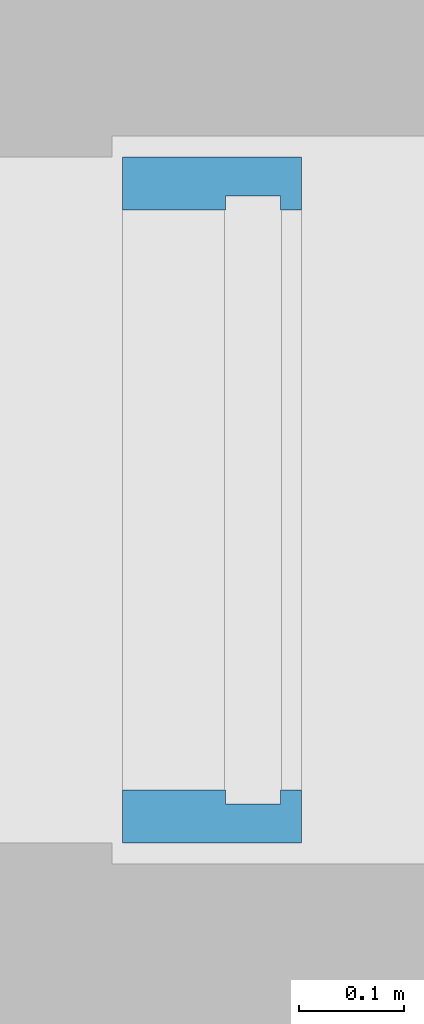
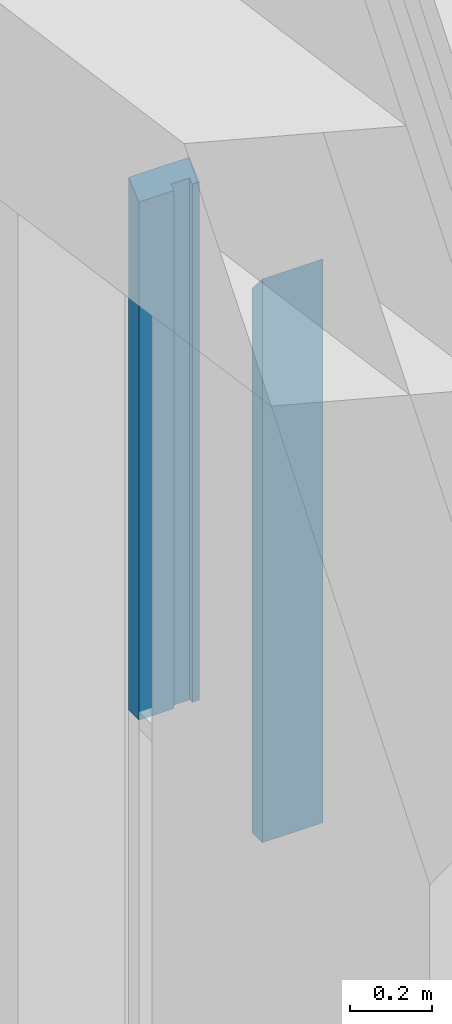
# One storey, part 79 of 246: 2 members, 1 element without a shape of its own.
"""IFC2X3 building model written with IfcOpenShell, lengths in millimetres."""

from ifc_helpers import new_model, entity, si_unit, converted_unit, derived_unit, money_unit, direction, frame, origin_with_axes, place, context, subcontext, project, spatial, faceted_brep, material, type_object, element, aggregate, save


model = new_model("IFC2X3")

# Units and contexts
model_context = context("Model", 3, precision=0.01, world=origin_with_axes(), true_north=direction((0.0, 1.0)))
body_context = subcontext(model_context, "Body", "Model", "MODEL_VIEW")
ifc_project = project(units=[si_unit("LENGTHUNIT", "METRE", prefix="MILLI"), si_unit("AREAUNIT", "SQUARE_METRE"), si_unit("VOLUMEUNIT", "CUBIC_METRE"), converted_unit("PLANEANGLEUNIT", "DEGREE", entity("IfcPlaneAngleMeasure", 0.0174532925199), si_unit("PLANEANGLEUNIT", "RADIAN"), dimensions=[0, 0, 0, 0, 0, 0, 0]), si_unit("SOLIDANGLEUNIT", "STERADIAN"), money_unit("EUR"), converted_unit("TIMEUNIT", "Year", entity("IfcTimeMeasure", 31556926.0), si_unit("TIMEUNIT", "SECOND"), dimensions=[0, 0, 1, 0, 0, 0, 0]), si_unit("MASSUNIT", "GRAM", prefix="KILO"), si_unit("THERMODYNAMICTEMPERATUREUNIT", "DEGREE_CELSIUS"), si_unit("LUMINOUSINTENSITYUNIT", "LUMEN"), si_unit("ENERGYUNIT", "JOULE", prefix="MEGA"), derived_unit("THERMALCONDUCTANCEUNIT", [(si_unit("POWERUNIT", "WATT"), 1), (si_unit("LENGTHUNIT", "METRE"), -1), (si_unit("THERMODYNAMICTEMPERATUREUNIT", "KELVIN"), -1)]), derived_unit("SPECIFICHEATCAPACITYUNIT", [(si_unit("ENERGYUNIT", "JOULE"), 1), (si_unit("MASSUNIT", "GRAM", prefix="KILO"), -1), (si_unit("THERMODYNAMICTEMPERATUREUNIT", "KELVIN"), -1)]), derived_unit("MASSDENSITYUNIT", [(si_unit("MASSUNIT", "GRAM", prefix="KILO"), 1), (si_unit("VOLUMEUNIT", "CUBIC_METRE"), -1)])], contexts=[model_context])

# Site, building, storey
site_placement = place(None, origin_with_axes())
site = spatial("IfcSite", under=ifc_project, at=site_placement, Name="L.Koidula tn 11b", CompositionType="ELEMENT")
building_placement = place(site_placement, origin_with_axes())
building = spatial("IfcBuilding", under=site, at=building_placement, Name="Rakvere Riigigümnaasium", CompositionType="ELEMENT")
storey_placement = place(building_placement, origin_with_axes())
storey = spatial("IfcBuildingStorey", under=building, at=storey_placement, Name="1.korrus 0,00", CompositionType="ELEMENT", Elevation=0.0)

# Curtain wall, members
curtain_wall_type = type_object("IfcCurtainWallType", Name="Curtain Wall Type", PredefinedType="NOTDEFINED")
curtain_wall_placement = place(storey_placement, frame((47433.9999935, 68420.4546651, 500.0), z_axis=(0.0, 0.0, 1.0), x_axis=(1.0, 0.0, 0.0)))
curtain_wall = element("IfcCurtainWall", 1, at=curtain_wall_placement, inside=storey, type_object=curtain_wall_type, Name="KLF-07-14")
ifc_material = material(Name="Alumiiniumprofiil (RAL 7021)")
member_type = type_object("IfcMemberType", Name="Boundary Frame 50 x 170", PredefinedType="MULLION")
member_1_placement = place(curtain_wall_placement, frame((0.0, -325.000159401, 1900.0), z_axis=(0.0, 1.27457658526e-07, 1.0), x_axis=(0.0, 1.0, -1.27457658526e-07)))
member_1 = element("IfcMember", 2, at=member_1_placement, type_object=member_type, material=ifc_material, Name="KLF-07-88-Profiilid", ObjectType="MULLION", context=body_context, shape_type="Brep", body=[
    faceted_brep([(36.9997921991, 26.0, 1630.35247568), (49.9997941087, 26.0, 1615.37052821), (49.9997941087, 124.0, 1615.37052821), (-0.000213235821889, 124.0, 1672.9934031), (-0.000213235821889, -46.0, 1672.9934031), (49.9997941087, -46.0, 1615.37052821), (49.9997941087, -26.0, 1615.37052821), (36.9997921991, -26.0, 1630.35247568), (37.0, 26.0, 4.65661553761e-06), (50.0, 26.0, 6.31356478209e-06), (50.0, 124.0, 6.31356478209e-06), (0.0, 124.0, -5.93178839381e-08), (0.0, -46.0, -5.93178839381e-08), (50.0, -46.0, 6.31356478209e-06), (50.0, -26.0, 6.31356478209e-06), (37.0, -26.0, 4.65661553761e-06)], [[[0, 1, 2, 3, 4, 5, 6, 7]], [[0, 8, 9, 1]], [[9, 10, 2, 1]], [[10, 11, 3, 2]], [[11, 12, 4, 3]], [[12, 13, 5, 4]], [[6, 5, 13, 14]], [[14, 15, 7, 6]], [[7, 15, 8, 0]], [[8, 15, 14, 13, 12, 11, 10, 9]]]),
])
member_2_placement = place(curtain_wall_placement, frame((0.0, 325.000051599, 3480.45062093), z_axis=(0.0, 1.49850299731e-09, -1.0), x_axis=(0.0, -1.0, -1.49850299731e-09)))
member_2 = element("IfcMember", 3, at=member_2_placement, type_object=member_type, material=ifc_material, Name="KLF-07-90-Profiilid", ObjectType="MULLION", context=body_context, shape_type="Brep", body=[
    faceted_brep([(37.0000023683, 26.0, 1580.45062153), (50.0000023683, 26.0, 1580.45062152), (50.0000023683, 124.0, 1580.45062152), (2.36830999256e-06, 124.0, 1580.45062159), (2.36830999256e-06, -46.0, 1580.45062159), (50.0000023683, -46.0, 1580.45062152), (50.0000023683, -26.0, 1580.45062152), (37.0000023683, -26.0, 1580.45062153), (37.0000000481, 26.0, 32.1052976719), (50.000000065, 26.0, 43.3855373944), (50.000000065, 124.0, 43.3855373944), (0.0, 124.0, 0.0), (0.0, -46.0, 0.0), (50.000000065, -46.0, 43.3855373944), (50.000000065, -26.0, 43.3855373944), (37.0000000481, -26.0, 32.1052976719)], [[[0, 1, 2, 3, 4, 5, 6, 7]], [[0, 8, 9, 1]], [[9, 10, 2, 1]], [[2, 10, 11, 3]], [[3, 11, 12, 4]], [[4, 12, 13, 5]], [[6, 5, 13, 14]], [[14, 15, 7, 6]], [[7, 15, 8, 0]], [[8, 15, 14, 13, 12, 11, 10, 9]]]),
])
aggregate(curtain_wall, [member_1, member_2])

save(model, "model.ifc")
